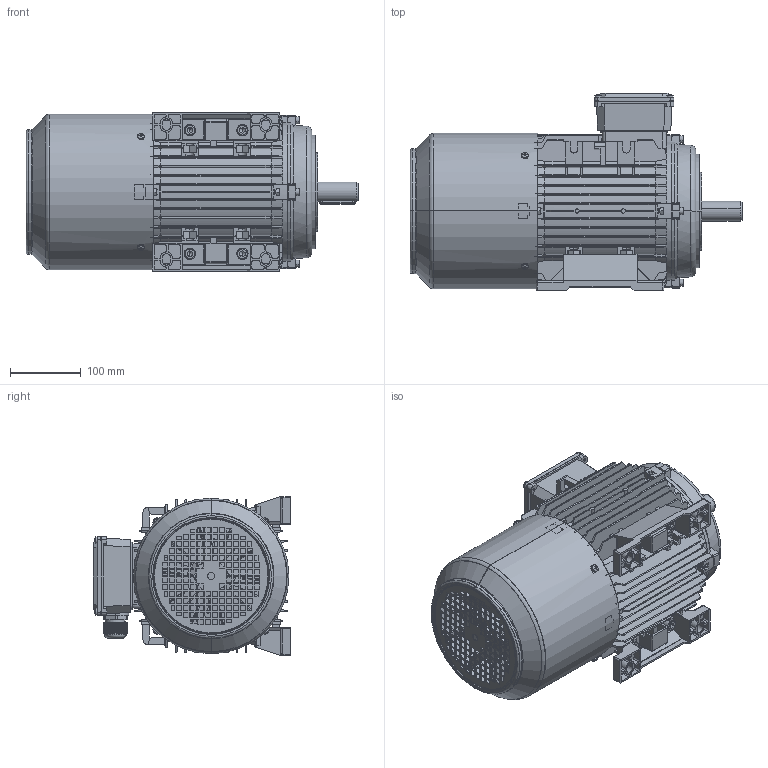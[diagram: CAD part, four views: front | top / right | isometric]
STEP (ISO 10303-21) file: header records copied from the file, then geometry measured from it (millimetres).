
FILE_DESCRIPTION (( 'STEP AP203' ), '1' );
FILE_NAME ('TB112 B34（风罩不带手柄孔）.STEP', '2021-10-25T06:43:14', ( '' ), ( '' ), 'SwSTEP 2.0', 'SolidWorks 2014', '' );
FILE_SCHEMA (( 'CONFIG_CONTROL_DESIGN' ));
Length unit declared in the file: millimetre
Products named in the file (17): 112-132堤盄蹟杶; TA112B14楊擘1; Hexagon socket head cap screws GB_GB_FASTENER_SCREWS_HSHCS M10X25-N; MS132諉盄碟裔; TB112綴裔; Hexagon nuts grade C GB_GB_FASTENER_NUT_SNC1 M10-N; TB112 B34（风罩不带手柄孔）; Hexagon socket head cap screws GB_GB_FASTENER_SCREWS_HSHCS M6X30-N; T112儂褲; Cross recessed thread forming screws GB_GB_CROSS_SCREWS_TYPE138 M5X12-N; 112怢宒瑞珔; TB112蛌粣; Plain parallel keys_GB_CONNECTING_PIECE_KEYS_CSK 8X50; MS132諉盄碟釱; T112菁褐; Hexagon nuts grade C GB_GB_FASTENER_NUT_SNC1 M6-N; TB112瑞欶(祥湍忒梟謂)
Assembly tree (45 placements, depth 2):
  TB112 B34（风罩不带手柄孔）
    T112儂褲
    T112菁褐  x2
    TB112綴裔
    TB112蛌粣
    112-132堤盄蹟杶  x2
    Hexagon socket head cap screws GB_GB_FASTENER_SCREWS_HSHCS M10X25-N  x4
    Cross recessed thread forming screws GB_GB_CROSS_SCREWS_TYPE138 M5X12-N  x8
    Hexagon nuts grade C GB_GB_FASTENER_NUT_SNC1 M6-N  x8
    Hexagon nuts grade C GB_GB_FASTENER_NUT_SNC1 M10-N  x4
    Plain parallel keys_GB_CONNECTING_PIECE_KEYS_CSK 8X50
    TA112B14楊擘1
    Hexagon socket head cap screws GB_GB_FASTENER_SCREWS_HSHCS M6X30-N  x8
    MS132諉盄碟釱
    MS132諉盄碟裔
    112怢宒瑞珔
    TB112瑞欶(祥湍忒梟謂)
Bounding box: 468 x 278 x 224 mm (x, y, z)
Volume: 2432542.2 mm3; surface area: 1410837.3 mm2
Topology: 45 solids, 45 shells, 4532 faces, 12436 edges, 8070 vertices
Faces by surface type: plane 2934, cylinder 1104, cone 275, torus 187, sphere 26, bspline 6
Entity records: 122544 total; most frequent: CARTESIAN_POINT 28702, ORIENTED_EDGE 19830, DIRECTION 17910, EDGE_CURVE 9915, LINE 6564, VECTOR 6564, VERTEX_POINT 6474, AXIS2_PLACEMENT_3D 5673
